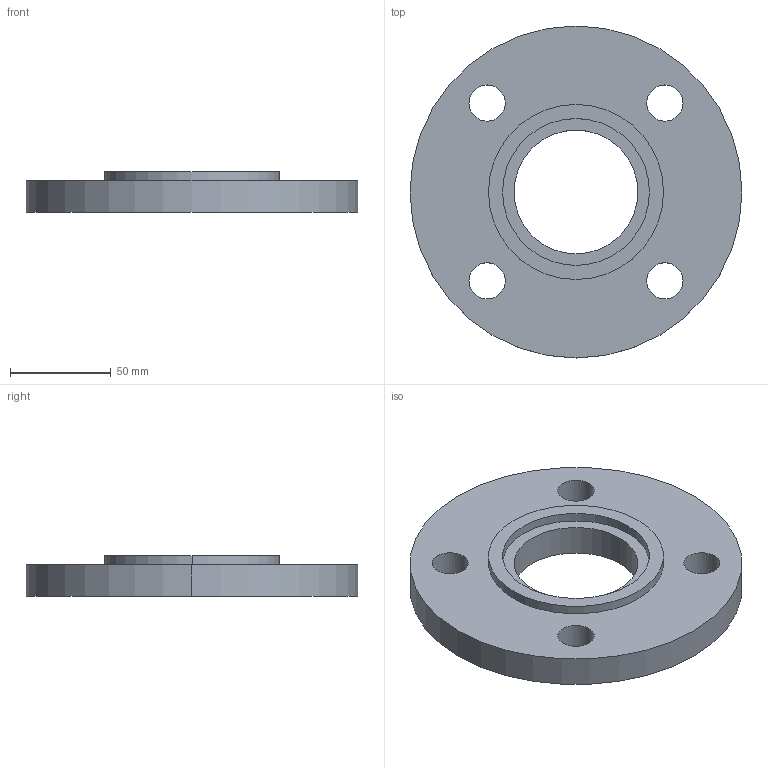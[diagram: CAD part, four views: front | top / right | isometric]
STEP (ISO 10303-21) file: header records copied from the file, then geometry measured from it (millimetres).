
FILE_DESCRIPTION (( 'STEP AP214' ), '1' );
FILE_NAME ('PN40 DN50 Type 01 - Type C Face.STEP', '2018-12-30T04:45:35', ( '' ), ( '' ), 'SwSTEP 2.0', 'SolidWorks 2019', '' );
FILE_SCHEMA (( 'AUTOMOTIVE_DESIGN' ));
Length unit declared in the file: millimetre
Products named in the file (1): PN40 DN50 Type 01 - Type C Face
Bounding box: 165 x 165 x 20 mm (x, y, z)
Volume: 277524.1 mm3; surface area: 51585.3 mm2
Topology: 1 solids, 1 shells, 20 faces, 48 edges, 32 vertices
Faces by surface type: cylinder 16, plane 4
Entity records: 658 total; most frequent: DIRECTION 122, CARTESIAN_POINT 101, ORIENTED_EDGE 96, AXIS2_PLACEMENT_3D 53, EDGE_CURVE 48, CIRCLE 32, VERTEX_POINT 32, EDGE_LOOP 32
